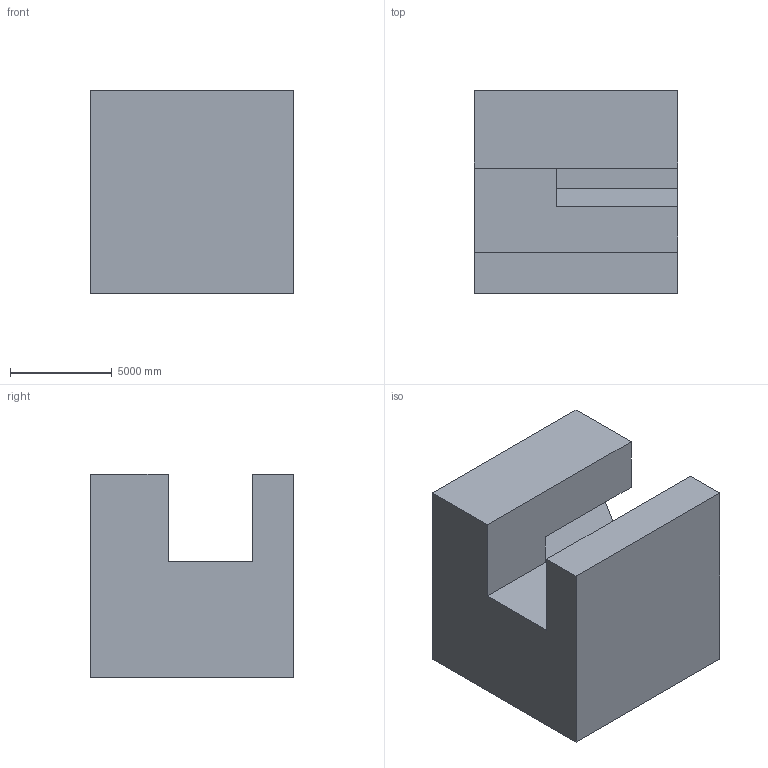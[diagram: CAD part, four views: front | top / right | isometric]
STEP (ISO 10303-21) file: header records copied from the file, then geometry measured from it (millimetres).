
FILE_DESCRIPTION (( 'STEP AP203' ), '1' );
FILE_NAME ('1178.STEP', '2022-08-18T13:04:08', ( 'user' ), ( '' ), 'SwSTEP 2.0', 'SolidWorks 2021', '' );
FILE_SCHEMA (( 'CONFIG_CONTROL_DESIGN' ));
Length unit declared in the file: centimetre
Products named in the file (1): 1178
Bounding box: 10000 x 10000 x 10000 mm (x, y, z)
Volume: 780386718895.5 mm3; surface area: 681117214 mm2
Topology: 1 solids, 1 shells, 17 faces, 45 edges, 30 vertices
Faces by surface type: plane 17
Entity records: 596 total; most frequent: CARTESIAN_POINT 93, ORIENTED_EDGE 90, DIRECTION 81, VECTOR 45, LINE 45, EDGE_CURVE 45, VERTEX_POINT 30, AXIS2_PLACEMENT_3D 18
